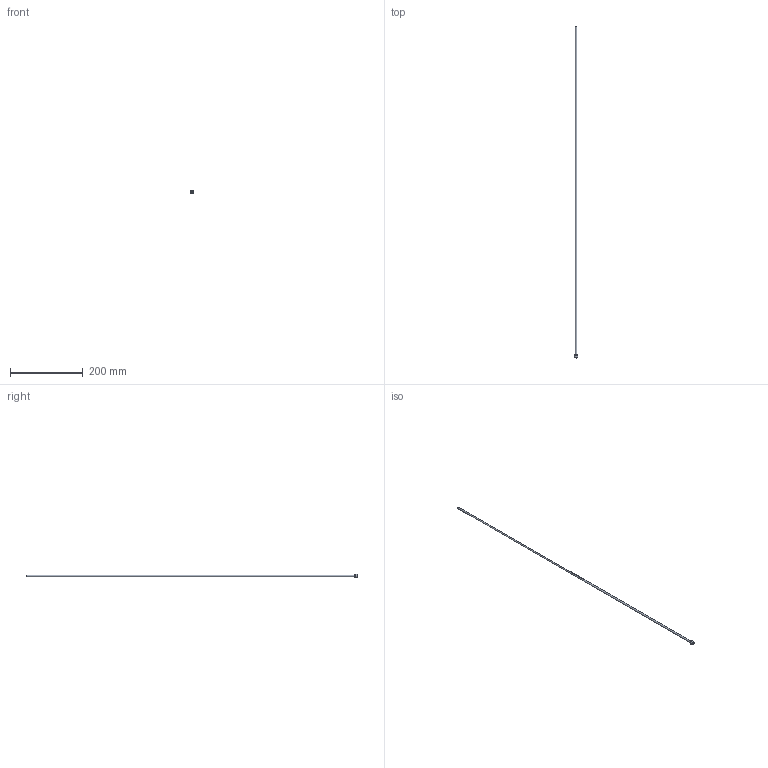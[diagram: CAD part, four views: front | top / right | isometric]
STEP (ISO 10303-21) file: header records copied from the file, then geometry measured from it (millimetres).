
FILE_DESCRIPTION(/* description */ (''),/* implementation_level */ '2;1');
FILE_NAME(/* name */ 'C:/Users/drich/Desktop/PT18-187-36 v1.step',/* time_stamp */ '2019-12-27T15:44:06-06:00',/* author */ (''),/* organization */ (''),/* preprocessor_version */ 'ST-DEVELOPER v18',/* originating_system */ 'Autodesk Translation Framework v8.12.0.6',/* authorisation */ '');
FILE_SCHEMA (('AUTOMOTIVE_DESIGN { 1 0 10303 214 3 1 1 }'));
Length unit declared in the file: inch
Products named in the file (1): PT18-187-36
Bounding box: 9.62 x 914.4 x 9.62 mm (x, y, z)
Volume: 3461.5 mm3; surface area: 25978.7 mm2
Topology: 1 solids, 1 shells, 19 faces, 48 edges, 34 vertices
Faces by surface type: plane 11, cylinder 4, torus 2, cone 2
Full cylindrical faces by diameter (mm): 4.242 x1, 4.724 x1, 6.35 x1, 9.621 x1
Entity records: 633 total; most frequent: DIRECTION 112, CARTESIAN_POINT 102, ORIENTED_EDGE 96, EDGE_CURVE 48, AXIS2_PLACEMENT_3D 44, VERTEX_POINT 34, CIRCLE 24, EDGE_LOOP 24
